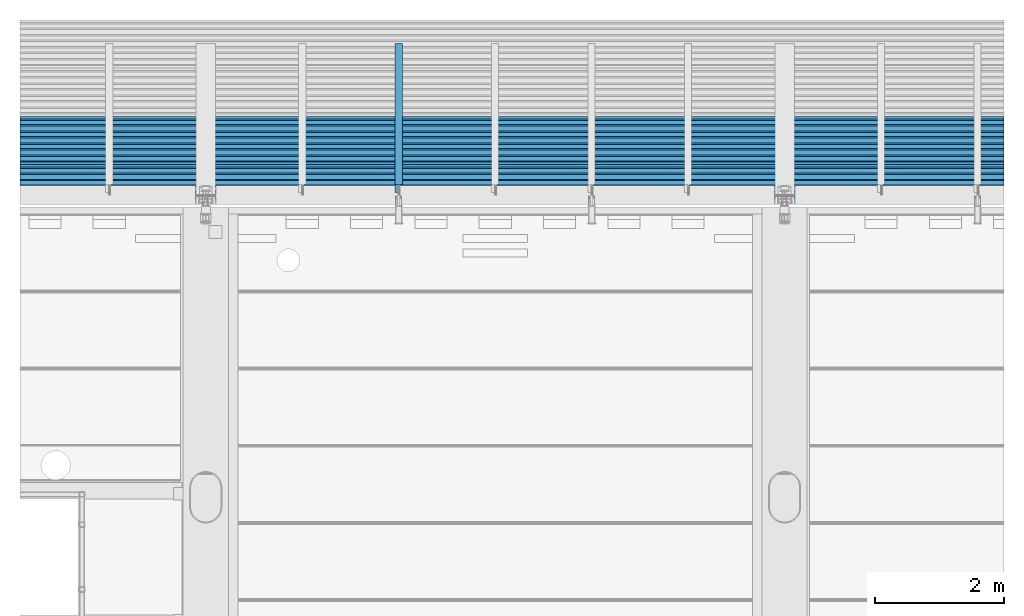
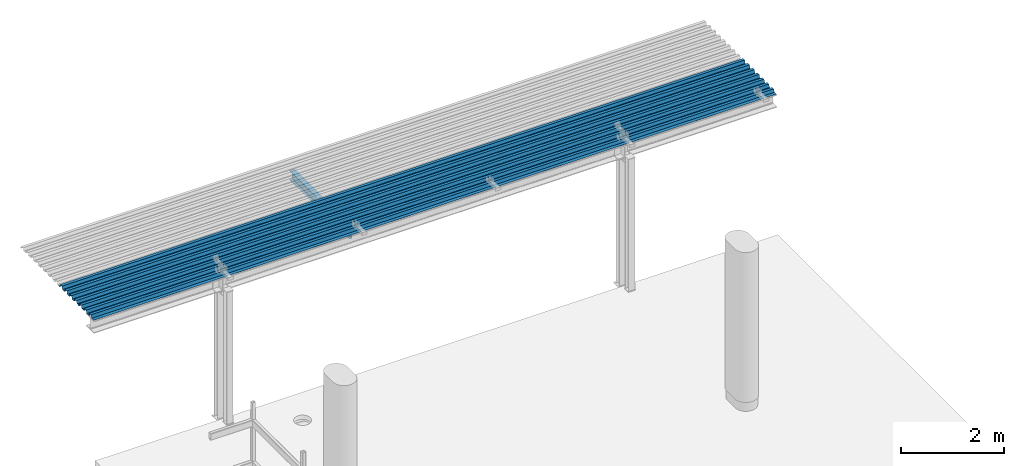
# One storey, part 25 of 34: 3 beams.
"""IFC2X3 building model written with IfcOpenShell, lengths in millimetres."""

from ifc_helpers import new_model, entity, si_unit, converted_unit, derived_unit, direction, frame, origin_with_axes, place, context, subcontext, project, spatial, faceted_brep, type_object, element, save


model = new_model("IFC2X3")

# Units and contexts
model_context = context("Model", 3, precision=0.01, world=frame((0.0, 4.29681676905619e-09, 0.0)), true_north=direction((4.01073788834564e-13, 1.0)))
plan_context = context("Plan", 3, precision=0.01, world=frame((0.0, 4.29681676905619e-09, 0.0)), true_north=direction((4.01073788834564e-13, 1.0)))
body_context = subcontext(model_context, "Body", "Model", "MODEL_VIEW")
ifc_project = project(units=[converted_unit("PLANEANGLEUNIT", "DEGREE", entity("IfcPositiveLengthMeasure", 0.0174532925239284), si_unit("PLANEANGLEUNIT", "RADIAN"), dimensions=[0, 0, 0, 0, 0, 0, 0]), si_unit("AREAUNIT", "SQUARE_METRE"), si_unit("LENGTHUNIT", "METRE", prefix="MILLI"), si_unit("MASSUNIT", "GRAM", prefix="KILO"), si_unit("POWERUNIT", "WATT"), si_unit("PRESSUREUNIT", "PASCAL"), si_unit("FORCEUNIT", "NEWTON", prefix="KILO"), si_unit("ELECTRICVOLTAGEUNIT", "VOLT"), si_unit("ELECTRICCURRENTUNIT", "AMPERE"), si_unit("THERMODYNAMICTEMPERATUREUNIT", "DEGREE_CELSIUS"), si_unit("TIMEUNIT", "SECOND"), si_unit("VOLUMEUNIT", "CUBIC_METRE"), derived_unit("LINEARVELOCITYUNIT", [(si_unit("LENGTHUNIT", "METRE"), 1), (si_unit("TIMEUNIT", "SECOND"), -1)]), derived_unit("VOLUMETRICFLOWRATEUNIT", [(si_unit("VOLUMEUNIT", "CUBIC_METRE"), 1), (si_unit("TIMEUNIT", "SECOND"), -1)]), derived_unit("THERMALTRANSMITTANCEUNIT", [(si_unit("POWERUNIT", "WATT"), 1), (si_unit("THERMODYNAMICTEMPERATUREUNIT", "KELVIN"), -1), (si_unit("AREAUNIT", "SQUARE_METRE"), -1)]), derived_unit("SOUNDPRESSUREUNIT", [(si_unit("PRESSUREUNIT", "PASCAL"), 1)])], contexts=[model_context, plan_context])

# Site, building, storey
site_placement = place(None, frame((0.0, -4.29681676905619e-09, 0.0), z_axis=(0.0, 0.0, 1.0), x_axis=(1.0, 0.0, 0.0)))
site = spatial("IfcSite", under=ifc_project, at=site_placement, Name="Gardermoen", CompositionType="ELEMENT")
building_placement = place(site_placement, frame((0.0, 4.29681676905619e-09, 0.0), z_axis=(0.0, 0.0, 1.0), x_axis=(1.0, 0.0, 0.0)))
building = spatial("IfcBuilding", under=site, at=building_placement, Name="TH", CompositionType="ELEMENT")
storey_placement = place(building_placement, origin_with_axes())
storey = spatial("IfcBuildingStorey", under=building, at=storey_placement, Name="F", CompositionType="ELEMENT", Elevation=0.0)

# Beams
beam_type_1 = type_object("IfcBeamType", Name="PLANJA70", PredefinedType="NOTDEFINED")
beam_1_placement = place(storey_placement, frame((935995.000000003, 485844.995625, 213454.15), z_axis=(-6.61744490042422e-24, 0.0, -1.0), x_axis=(-1.0, 0.0, 6.61744490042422e-24)))
element("IfcBeam", 1, at=beam_1_placement, inside=storey, type_object=beam_type_1, Name="STÅLTAK", ObjectType="PLANJA70", context=body_context, shape_type="Brep", body=[
    faceted_brep([(25584.4149880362, -335.07049561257, 33.1500015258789), (25584.4149880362, -312.781188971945, -33.1500015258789), (40883.0936612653, -312.781188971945, -33.1500015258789), (40883.0936612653, -335.07049561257, 33.1500015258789), (25584.4149880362, -249.719879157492, -33.1500015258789), (40883.0936612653, -249.719879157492, -33.1500015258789), (25584.4149880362, -227.199996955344, 34.1500015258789), (40883.0936612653, -227.199996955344, 34.1500015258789), (25584.4149880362, -147.800003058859, 34.1500015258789), (40883.0936612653, -147.800003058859, 34.1500015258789), (25584.4149880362, -125.280120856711, -33.1500015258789), (40883.0936612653, -125.280120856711, -33.1500015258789), (25584.4149880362, -62.219879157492, -33.1500015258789), (40883.0936612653, -62.219879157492, -33.1500015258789), (25584.4149880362, -39.7000007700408, 34.1500015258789), (40883.0936612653, -39.7000007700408, 34.1500015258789), (25584.4149880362, 39.7000007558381, 34.1500015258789), (40883.0936612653, 39.7000007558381, 34.1500015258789), (25584.4149880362, 62.2198791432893, -33.1500015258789), (40883.0936612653, 62.2198791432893, -33.1500015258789), (25584.4149880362, 125.280120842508, -33.1500015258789), (40883.0936612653, 125.280120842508, -33.1500015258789), (25584.4149880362, 147.800003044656, 34.1500015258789), (40883.0936612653, 147.800003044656, 34.1500015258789), (25584.4149880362, 227.199996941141, 34.1500015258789), (40883.0936612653, 227.199996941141, 34.1500015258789), (25584.4149880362, 249.489303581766, -32.1500015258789), (40883.0936612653, 249.489303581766, -32.1500015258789), (25584.4149880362, 313.010681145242, -32.1500015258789), (40883.0936612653, 313.010681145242, -32.1500015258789), (25584.4149880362, 335.299987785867, 34.1500015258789), (40883.0936612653, 335.299987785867, 34.1500015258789), (25584.4149880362, 374.999999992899, 34.1500015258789), (40883.0936612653, 374.999999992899, 34.1500015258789), (25584.4149880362, 374.999999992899, 33.1500015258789), (40883.0936612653, 374.999999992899, 33.1500015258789), (25584.4149880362, 336.018798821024, 33.1500015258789), (40883.0936612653, 336.018798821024, 33.1500015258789), (25584.4149880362, 313.729492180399, -33.1500015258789), (40883.0936612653, 313.729492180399, -33.1500015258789), (25584.4149880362, 248.77049254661, -33.1500015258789), (40883.0936612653, 248.77049254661, -33.1500015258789), (25584.4149880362, 226.481185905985, 33.1500015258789), (40883.0936612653, 226.481185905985, 33.1500015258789), (25584.4149880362, 148.519882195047, 33.1500015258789), (40883.0936612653, 148.519882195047, 33.1500015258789), (25584.4149880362, 125.999999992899, -34.1500015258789), (40883.0936612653, 125.999999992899, -34.1500015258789), (25584.4149880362, 61.4999999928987, -34.1500015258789), (40883.0936612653, 61.4999999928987, -34.1500015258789), (25584.4149880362, 38.9801177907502, 33.1500015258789), (40883.0936612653, 38.9801177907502, 33.1500015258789), (25584.4149880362, -38.9801178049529, 33.1500015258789), (40883.0936612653, -38.9801178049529, 33.1500015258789), (25584.4149880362, -61.5000000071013, -34.1500015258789), (40883.0936612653, -61.5000000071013, -34.1500015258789), (25584.4149880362, -126.000000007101, -34.1500015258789), (40883.0936612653, -126.000000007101, -34.1500015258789), (25584.4149880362, -148.51988220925, 33.1500015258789), (40883.0936612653, -148.51988220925, 33.1500015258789), (25584.4149880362, -226.480117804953, 33.1500015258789), (40883.0936612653, -226.480117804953, 33.1500015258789), (25584.4149880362, -249.000000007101, -34.1500015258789), (40883.0936612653, -249.000000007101, -34.1500015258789), (25584.4149880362, -313.500000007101, -34.1500015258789), (40883.0936612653, -313.500000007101, -34.1500015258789), (25584.4149880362, -335.789306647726, 32.1500015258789), (40883.0936612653, -335.789306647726, 32.1500015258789), (25584.4149880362, -375.000000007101, 32.1500015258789), (40883.0936612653, -375.000000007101, 32.1500015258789), (25584.4149880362, -375.000000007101, 33.1500015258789), (40883.0936612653, -375.000000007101, 33.1500015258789)], [[[0, 1, 2, 3]], [[1, 4, 5, 2]], [[4, 6, 7, 5]], [[6, 8, 9, 7]], [[8, 10, 11, 9]], [[10, 12, 13, 11]], [[12, 14, 15, 13]], [[14, 16, 17, 15]], [[16, 18, 19, 17]], [[18, 20, 21, 19]], [[20, 22, 23, 21]], [[22, 24, 25, 23]], [[24, 26, 27, 25]], [[26, 28, 29, 27]], [[28, 30, 31, 29]], [[30, 32, 33, 31]], [[32, 34, 35, 33]], [[34, 36, 37, 35]], [[36, 38, 39, 37]], [[38, 40, 41, 39]], [[40, 42, 43, 41]], [[42, 44, 45, 43]], [[44, 46, 47, 45]], [[46, 48, 49, 47]], [[48, 50, 51, 49]], [[50, 52, 53, 51]], [[52, 54, 55, 53]], [[54, 56, 57, 55]], [[56, 58, 59, 57]], [[58, 60, 61, 59]], [[60, 62, 63, 61]], [[62, 64, 65, 63]], [[64, 66, 67, 65]], [[66, 68, 69, 67]], [[68, 70, 71, 69]], [[70, 0, 3, 71]], [[70, 68, 66, 64, 62, 60, 58, 56, 54, 52, 50, 48, 46, 44, 42, 40, 38, 36, 34, 32, 30, 28, 26, 24, 22, 20, 18, 16, 14, 12, 10, 8, 6, 4, 1, 0]], [[5, 7, 9, 11, 13, 15, 17, 19, 21, 23, 25, 27, 29, 31, 33, 35, 37, 39, 41, 43, 45, 47, 49, 51, 53, 55, 57, 59, 61, 63, 65, 67, 69, 71, 3, 2]]], orient=[[False], [False], [False], [False], [False], [False], [False], [False], [False], [False], [False], [False], [False], [False], [False], [False], [False], [False], [False], [False], [False], [False], [False], [False], [False], [False], [False], [False], [False], [False], [False], [False], [False], [False], [False], [False], [False], [False]]),
])
beam_2_placement = place(storey_placement, frame((935995.000000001, 485094.995625, 213454.15), z_axis=(-6.61744490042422e-24, 0.0, -1.0), x_axis=(-1.0, 0.0, 6.61744490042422e-24)))
element("IfcBeam", 2, at=beam_2_placement, inside=storey, type_object=beam_type_1, Name="STÅLTAK", ObjectType="PLANJA70", context=body_context, shape_type="Brep", body=[
    faceted_brep([(25584.4149880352, -225.003976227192, 34.1500015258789), (25584.4149880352, -147.800003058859, 34.1500015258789), (40883.0936612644, -147.800003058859, 34.1500015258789), (40883.0936612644, -225.003976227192, 34.1500015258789), (25584.4149880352, -125.280120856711, -33.1500015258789), (40883.0936612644, -125.280120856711, -33.1500015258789), (25584.4149880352, -62.219879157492, -33.1500015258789), (40883.0936612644, -62.219879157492, -33.1500015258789), (25584.4149880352, -39.7000007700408, 34.1500015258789), (40883.0936612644, -39.7000007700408, 34.1500015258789), (25584.4149880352, 39.7000007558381, 34.1500015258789), (40883.0936612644, 39.7000007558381, 34.1500015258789), (25584.4149880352, 62.2198791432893, -33.1500015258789), (40883.0936612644, 62.2198791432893, -33.1500015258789), (25584.4149880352, 125.280120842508, -33.1500015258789), (40883.0936612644, 125.280120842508, -33.1500015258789), (25584.4149880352, 147.800003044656, 34.1500015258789), (40883.0936612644, 147.800003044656, 34.1500015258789), (25584.4149880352, 227.199996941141, 34.1500015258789), (40883.0936612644, 227.199996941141, 34.1500015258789), (25584.4149880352, 249.489303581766, -32.1500015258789), (40883.0936612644, 249.489303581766, -32.1500015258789), (25584.4149880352, 313.010681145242, -32.1500015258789), (40883.0936612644, 313.010681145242, -32.1500015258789), (25584.4149880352, 335.299987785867, 34.1500015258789), (40883.0936612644, 335.299987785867, 34.1500015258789), (25584.4149880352, 374.999999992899, 34.1500015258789), (40883.0936612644, 374.999999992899, 34.1500015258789), (25584.4149880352, 374.999999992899, 33.1500015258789), (40883.0936612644, 374.999999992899, 33.1500015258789), (25584.4149880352, 336.018798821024, 33.1500015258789), (40883.0936612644, 336.018798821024, 33.1500015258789), (25584.4149880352, 313.729492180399, -33.1500015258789), (40883.0936612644, 313.729492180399, -33.1500015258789), (25584.4149880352, 248.77049254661, -33.1500015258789), (40883.0936612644, 248.77049254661, -33.1500015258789), (25584.4149880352, 226.481185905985, 33.1500015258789), (40883.0936612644, 226.481185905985, 33.1500015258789), (25584.4149880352, 148.519882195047, 33.1500015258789), (40883.0936612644, 148.519882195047, 33.1500015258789), (25584.4149880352, 125.999999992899, -34.1500015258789), (40883.0936612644, 125.999999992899, -34.1500015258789), (25584.4149880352, 61.4999999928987, -34.1500015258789), (40883.0936612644, 61.4999999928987, -34.1500015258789), (25584.4149880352, 38.9801177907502, 33.1500015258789), (40883.0936612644, 38.9801177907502, 33.1500015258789), (25584.4149880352, -38.9801178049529, 33.1500015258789), (40883.0936612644, -38.9801178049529, 33.1500015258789), (25584.4149880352, -61.5000000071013, -34.1500015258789), (40883.0936612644, -61.5000000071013, -34.1500015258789), (25584.4149880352, -126.000000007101, -34.1500015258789), (40883.0936612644, -126.000000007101, -34.1500015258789), (25584.4149880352, -148.51988220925, 33.1500015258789), (40883.0936612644, -148.51988220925, 33.1500015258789), (40883.0936612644, -225.003976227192, 33.1500015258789), (25584.4149880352, -225.003976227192, 33.1500015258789)], [[[0, 1, 2, 3]], [[1, 4, 5, 2]], [[4, 6, 7, 5]], [[6, 8, 9, 7]], [[8, 10, 11, 9]], [[10, 12, 13, 11]], [[12, 14, 15, 13]], [[14, 16, 17, 15]], [[16, 18, 19, 17]], [[18, 20, 21, 19]], [[20, 22, 23, 21]], [[22, 24, 25, 23]], [[24, 26, 27, 25]], [[26, 28, 29, 27]], [[28, 30, 31, 29]], [[30, 32, 33, 31]], [[32, 34, 35, 33]], [[34, 36, 37, 35]], [[36, 38, 39, 37]], [[38, 40, 41, 39]], [[40, 42, 43, 41]], [[42, 44, 45, 43]], [[44, 46, 47, 45]], [[46, 48, 49, 47]], [[48, 50, 51, 49]], [[50, 52, 53, 51]], [[54, 53, 52, 55]], [[55, 0, 3, 54]], [[55, 52, 50, 48, 46, 44, 42, 40, 38, 36, 34, 32, 30, 28, 26, 24, 22, 20, 18, 16, 14, 12, 10, 8, 6, 4, 1, 0]], [[5, 7, 9, 11, 13, 15, 17, 19, 21, 23, 25, 27, 29, 31, 33, 35, 37, 39, 41, 43, 45, 47, 49, 51, 53, 54, 3, 2]]], orient=[[False], [False], [False], [False], [False], [False], [False], [False], [False], [False], [False], [False], [False], [False], [False], [False], [False], [False], [False], [False], [False], [False], [False], [False], [False], [False], [False], [False], [False], [False]]),
])
beam_type_2 = type_object("IfcBeamType", Name="IPE220", PredefinedType="NOTDEFINED")
beam_3_placement = place(storey_placement, frame((900999.999781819, 485029.995624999, 213310.0), z_axis=(0.0, 0.0, 1.0), x_axis=(0.0, 1.0, 0.0)))
element("IfcBeam", 3, at=beam_3_placement, inside=storey, type_object=beam_type_2, Name="STÅLBJELKE", ObjectType="IPE220", context=body_context, shape_type="Brep", body=[
    faceted_brep([(2327.65437500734, -55.0, -110.0), (2327.65437500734, 55.0, -110.0), (9.99999999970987, 55.0, -110.0), (9.99999999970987, -2.9500000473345, -110.0), (129.999999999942, -2.95000004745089, -110.0), (129.999999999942, -55.0, -110.0), (2327.65437500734, -55.0, -100.800000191), (129.999999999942, -55.0, -100.800000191), (2327.65437500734, -14.9500000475, -100.800000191), (129.999999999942, -14.9500000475, -100.800000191), (2327.65437500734, -12.6089161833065, -100.569423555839), (129.999999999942, -12.6089161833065, -100.569423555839), (2327.65437500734, -10.3577988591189, -99.8865545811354), (129.999999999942, -10.3577988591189, -99.8865545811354), (2327.65437500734, -8.28315725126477, -98.7776355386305), (129.999999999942, -8.28315725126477, -98.7776355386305), (2327.65437500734, -6.46471867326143, -97.2852815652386), (129.999999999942, -6.46471867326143, -97.2852815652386), (2327.65437500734, -4.97236469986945, -95.4668429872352), (129.999999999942, -4.97236469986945, -95.4668429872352), (2327.65437500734, -3.86344565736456, -93.3922013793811), (129.999999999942, -3.86344565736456, -93.3922013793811), (2327.65437500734, -3.18057668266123, -91.1410840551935), (129.999999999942, -3.18057668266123, -91.1410840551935), (2327.65437500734, -2.9500000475, -88.800000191), (129.999999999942, -2.96969830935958, -89.0), (9.99999999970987, -2.96969830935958, -89.0), (9.99999999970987, -2.9500000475, -88.800000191), (2327.65437500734, -2.9500000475, 88.800000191), (9.99999999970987, -2.9500000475, 70.0), (120.000000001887, -2.9500000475, 69.9999999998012), (121.564344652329, -2.9500000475, 70.1231165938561), (123.090169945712, -2.9500000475, 70.4894348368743), (124.539904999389, -2.9500000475, 71.0899347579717), (125.87785252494, -2.9500000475, 71.9098300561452), (127.071067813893, -2.9500000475, 72.9289321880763), (128.090169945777, -2.9500000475, 74.1221474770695), (128.910065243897, -2.9500000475, 75.4600950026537), (129.510565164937, -2.9500000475, 76.9098300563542), (129.876883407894, -2.9500000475, 78.4356553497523), (130.000000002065, -2.9500000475, 79.999999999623), (130.000000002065, -2.9500000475, 88.800000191), (1319.99999644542, -2.95000004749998, -62.4999973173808), (1330.28716071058, -2.95000004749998, -61.6475789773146), (1340.29371582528, -2.95000004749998, -59.113575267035), (1349.74671125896, -2.95000004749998, -54.9671072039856), (1358.38829393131, -2.95000004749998, -49.3212796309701), (1365.98274398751, -2.95000004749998, -42.3300960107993), (1372.32290462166, -2.95000004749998, -34.1842576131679), (1377.23583277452, -2.95000004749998, -25.1059616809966), (1380.58751656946, -2.95000004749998, -15.3428404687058), (1382.28653080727, -2.95000004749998, -5.16120647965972), (1382.28653080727, -2.95000004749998, 5.16121184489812), (1380.58751656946, -2.95000004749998, 15.3428458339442), (1377.23583277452, -2.95000004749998, 25.105967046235), (1372.32290462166, -2.95000004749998, 34.1842629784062), (1365.98274398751, -2.95000004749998, 42.3301013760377), (1358.38829393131, -2.95000004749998, 49.3212849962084), (1349.74671125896, -2.95000004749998, 54.9671125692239), (1340.29371582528, -2.95000004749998, 59.1135806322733), (1330.28716071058, -2.95000004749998, 61.6475843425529), (1319.99999866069, -2.95000004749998, 62.5000026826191), (1309.14699239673, -2.95000004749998, 61.5504878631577), (1298.62374438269, -2.95000004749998, 58.7307926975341), (1288.75000307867, -2.95000004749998, 54.1265921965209), (1279.82577711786, -2.95000004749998, 47.8777826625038), (1272.12222459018, -2.95000004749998, 40.1742310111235), (1265.87341404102, -2.95000004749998, 31.250005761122), (1261.26921241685, -2.95000004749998, 21.3762649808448), (1258.44951605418, -2.95000004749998, 10.8530172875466), (1257.50000000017, -2.95000004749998, 6.23736814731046e-06), (1258.44951481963, -2.95000004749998, -10.8530049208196), (1261.26920998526, -2.95000004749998, -21.3762529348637), (1265.87341048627, -2.95000004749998, -31.2499942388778), (1272.12222002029, -2.95000004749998, -40.1742201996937), (1279.82577167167, -2.95000004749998, -47.8777727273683), (1288.74999692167, -2.95000004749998, -54.1265832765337), (1298.62373770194, -2.95000004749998, -58.7307849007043), (1309.14698539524, -2.95000004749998, -61.5504812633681), (2327.65437500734, -3.18057668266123, 91.1410840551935), (130.000000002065, -3.18057668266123, 91.1410840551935), (2327.65437500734, -3.86344565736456, 93.3922013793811), (130.000000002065, -3.86344565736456, 93.3922013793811), (2327.65437500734, -4.97236469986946, 95.4668429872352), (130.000000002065, -4.97236469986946, 95.4668429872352), (2327.65437500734, -6.46471867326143, 97.2852815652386), (130.000000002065, -6.46471867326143, 97.2852815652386), (2327.65437500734, -8.28315725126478, 98.7776355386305), (130.000000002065, -8.28315725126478, 98.7776355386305), (2327.65437500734, -10.3577988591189, 99.8865545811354), (130.000000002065, -10.3577988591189, 99.8865545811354), (2327.65437500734, -12.6089161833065, 100.569423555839), (130.000000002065, -12.6089161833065, 100.569423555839), (2327.65437500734, -14.9500000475, 100.800000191), (130.000000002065, -14.9500000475, 100.800000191), (2327.65437500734, -55.0, 100.800000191), (130.000000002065, -55.0, 100.800000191), (2327.65437500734, -55.0, 110.0), (130.000000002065, -55.0, 110.0), (2327.65437500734, 55.0, 110.0), (130.000000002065, 55.0, 110.0), (2327.65437500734, 55.0, 100.800000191), (130.000000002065, 55.0, 100.800000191), (2327.65437500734, 14.9500000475, 100.800000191), (130.000000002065, 14.9500000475, 100.800000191), (2327.65437500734, 12.6089161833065, 100.569423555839), (130.000000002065, 12.6089161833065, 100.569423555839), (2327.65437500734, 10.3577988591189, 99.8865545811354), (130.000000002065, 10.3577988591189, 99.8865545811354), (2327.65437500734, 8.28315725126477, 98.7776355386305), (130.000000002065, 8.28315725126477, 98.7776355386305), (2327.65437500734, 6.46471867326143, 97.2852815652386), (130.000000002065, 6.46471867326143, 97.2852815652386), (2327.65437500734, 4.97236469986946, 95.4668429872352), (130.000000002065, 4.97236469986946, 95.4668429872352), (2327.65437500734, 3.86344565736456, 93.3922013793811), (130.000000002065, 3.86344565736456, 93.3922013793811), (2327.65437500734, 3.18057668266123, 91.1410840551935), (130.000000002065, 3.18057668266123, 91.1410840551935), (2327.65437500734, 2.9500000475, 88.800000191), (130.000000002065, 2.9500000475, 88.800000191), (2327.65437500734, 2.9500000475, -88.800000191), (130.000000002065, 2.95000004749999, 79.999999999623), (129.876883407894, 2.95000004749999, 78.4356553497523), (129.510565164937, 2.95000004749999, 76.9098300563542), (128.910065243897, 2.95000004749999, 75.4600950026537), (128.090169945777, 2.95000004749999, 74.1221474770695), (127.071067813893, 2.95000004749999, 72.9289321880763), (125.87785252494, 2.95000004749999, 71.9098300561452), (124.539904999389, 2.95000004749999, 71.0899347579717), (123.090169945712, 2.95000004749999, 70.4894348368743), (121.564344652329, 2.95000004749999, 70.1231165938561), (120.000000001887, 2.95000004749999, 69.9999999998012), (9.99999999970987, 2.9500000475, 70.0), (9.99999999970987, 2.9500000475, -88.800000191), (1330.28716071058, 2.95000004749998, -61.6475789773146), (1319.99999644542, 2.95000004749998, -62.4999973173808), (1309.14698539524, 2.95000004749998, -61.5504812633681), (1298.62373770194, 2.95000004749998, -58.7307849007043), (1288.74999692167, 2.95000004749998, -54.1265832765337), (1279.82577167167, 2.95000004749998, -47.8777727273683), (1272.12222002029, 2.95000004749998, -40.1742201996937), (1265.87341048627, 2.95000004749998, -31.2499942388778), (1261.26920998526, 2.95000004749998, -21.3762529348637), (1258.44951481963, 2.95000004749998, -10.8530049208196), (1257.50000000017, 2.95000004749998, 6.23736814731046e-06), (1258.44951605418, 2.95000004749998, 10.8530172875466), (1261.26921241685, 2.95000004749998, 21.3762649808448), (1265.87341404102, 2.95000004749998, 31.250005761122), (1272.12222459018, 2.95000004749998, 40.1742310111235), (1279.82577711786, 2.95000004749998, 47.8777826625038), (1288.75000307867, 2.95000004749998, 54.1265921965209), (1298.62374438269, 2.95000004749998, 58.7307926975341), (1309.14699239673, 2.95000004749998, 61.5504878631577), (1319.99999866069, 2.95000004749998, 62.5000026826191), (1330.28716071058, 2.95000004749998, 61.6475843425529), (1340.29371582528, 2.95000004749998, 59.1135806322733), (1349.74671125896, 2.95000004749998, 54.9671125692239), (1358.38829393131, 2.95000004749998, 49.3212849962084), (1365.98274398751, 2.95000004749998, 42.3301013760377), (1372.32290462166, 2.95000004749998, 34.1842629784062), (1377.23583277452, 2.95000004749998, 25.105967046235), (1380.58751656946, 2.95000004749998, 15.3428458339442), (1382.28653080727, 2.95000004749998, 5.16121184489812), (1382.28653080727, 2.95000004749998, -5.16120647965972), (1380.58751656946, 2.95000004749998, -15.3428404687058), (1377.23583277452, 2.95000004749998, -25.1059616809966), (1372.32290462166, 2.95000004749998, -34.1842576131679), (1365.98274398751, 2.95000004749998, -42.3300960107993), (1358.38829393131, 2.95000004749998, -49.3212796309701), (1349.74671125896, 2.95000004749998, -54.9671072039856), (1340.29371582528, 2.95000004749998, -59.113575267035), (2327.65437500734, 3.18057668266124, -91.1410840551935), (9.99999999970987, 3.18057668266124, -91.1410840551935), (2327.65437500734, 3.86344565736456, -93.3922013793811), (9.99999999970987, 3.86344565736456, -93.3922013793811), (2327.65437500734, 4.97236469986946, -95.4668429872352), (9.99999999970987, 4.97236469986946, -95.4668429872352), (2327.65437500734, 6.46471867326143, -97.2852815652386), (9.99999999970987, 6.46471867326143, -97.2852815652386), (2327.65437500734, 8.28315725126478, -98.7776355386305), (9.99999999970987, 8.28315725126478, -98.7776355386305), (2327.65437500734, 10.3577988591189, -99.8865545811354), (9.99999999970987, 10.3577988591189, -99.8865545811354), (2327.65437500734, 12.6089161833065, -100.569423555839), (9.99999999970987, 12.6089161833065, -100.569423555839), (2327.65437500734, 14.9500000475, -100.800000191), (9.99999999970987, 14.9500000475, -100.800000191), (2327.65437500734, 55.0, -100.800000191), (9.99999999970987, 55.0, -100.800000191), (129.999999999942, -2.95000004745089, -89.0), (9.99999999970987, -2.95000004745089, -89.0)], [[[0, 1, 2, 3, 4, 5]], [[6, 0, 5, 7]], [[8, 6, 7, 9]], [[10, 8, 9, 11]], [[12, 10, 11, 13]], [[14, 12, 13, 15]], [[16, 14, 15, 17]], [[18, 16, 17, 19]], [[20, 18, 19, 21]], [[22, 20, 21, 23]], [[24, 22, 23, 25, 26, 27]], [[28, 24, 27, 29, 30, 31, 32, 33, 34, 35, 36, 37, 38, 39, 40, 41], [42, 43, 44, 45, 46, 47, 48, 49, 50, 51, 52, 53, 54, 55, 56, 57, 58, 59, 60, 61, 62, 63, 64, 65, 66, 67, 68, 69, 70, 71, 72, 73, 74, 75, 76, 77, 78]], [[79, 28, 41, 80]], [[81, 79, 80, 82]], [[83, 81, 82, 84]], [[85, 83, 84, 86]], [[87, 85, 86, 88]], [[89, 87, 88, 90]], [[91, 89, 90, 92]], [[93, 91, 92, 94]], [[95, 93, 94, 96]], [[97, 95, 96, 98]], [[99, 97, 98, 100]], [[101, 99, 100, 102]], [[103, 101, 102, 104]], [[105, 103, 104, 106]], [[107, 105, 106, 108]], [[109, 107, 108, 110]], [[111, 109, 110, 112]], [[113, 111, 112, 114]], [[115, 113, 114, 116]], [[117, 115, 116, 118]], [[119, 117, 118, 120]], [[121, 119, 120, 122, 123, 124, 125, 126, 127, 128, 129, 130, 131, 132, 133, 134], [135, 136, 137, 138, 139, 140, 141, 142, 143, 144, 145, 146, 147, 148, 149, 150, 151, 152, 153, 154, 155, 156, 157, 158, 159, 160, 161, 162, 163, 164, 165, 166, 167, 168, 169, 170, 171]], [[172, 121, 134, 173]], [[174, 172, 173, 175]], [[176, 174, 175, 177]], [[178, 176, 177, 179]], [[180, 178, 179, 181]], [[182, 180, 181, 183]], [[184, 182, 183, 185]], [[186, 184, 185, 187]], [[188, 186, 187, 189]], [[1, 188, 189, 2]], [[43, 42, 136, 135]], [[42, 78, 137, 136]], [[78, 77, 138, 137]], [[77, 76, 139, 138]], [[76, 75, 140, 139]], [[75, 74, 141, 140]], [[74, 73, 142, 141]], [[73, 72, 143, 142]], [[72, 71, 144, 143]], [[71, 70, 145, 144]], [[70, 69, 146, 145]], [[69, 68, 147, 146]], [[68, 67, 148, 147]], [[67, 66, 149, 148]], [[66, 65, 150, 149]], [[65, 64, 151, 150]], [[64, 63, 152, 151]], [[63, 62, 153, 152]], [[62, 61, 154, 153]], [[61, 60, 155, 154]], [[60, 59, 156, 155]], [[59, 58, 157, 156]], [[58, 57, 158, 157]], [[57, 56, 159, 158]], [[56, 55, 160, 159]], [[55, 54, 161, 160]], [[54, 53, 162, 161]], [[53, 52, 163, 162]], [[52, 51, 164, 163]], [[51, 50, 165, 164]], [[50, 49, 166, 165]], [[49, 48, 167, 166]], [[48, 47, 168, 167]], [[47, 46, 169, 168]], [[46, 45, 170, 169]], [[45, 44, 171, 170]], [[44, 43, 135, 171]], [[190, 25, 23, 21, 19, 17, 15, 13, 11, 9, 7, 5, 4]], [[190, 191, 26, 25]], [[190, 4, 3, 191]], [[30, 29, 133, 132]], [[132, 131, 31, 30]], [[131, 130, 32, 31]], [[130, 129, 33, 32]], [[129, 128, 34, 33]], [[128, 127, 35, 34]], [[127, 126, 36, 35]], [[126, 125, 37, 36]], [[125, 124, 38, 37]], [[124, 123, 39, 38]], [[123, 122, 40, 39]], [[122, 120, 118, 116, 114, 112, 110, 108, 106, 104, 102, 100, 98, 96, 94, 92, 90, 88, 86, 84, 82, 80, 41, 40]], [[26, 191, 3, 2, 189, 187, 185, 183, 181, 179, 177, 175, 173, 134, 133, 29, 27]], [[6, 8, 10, 12, 14, 16, 18, 20, 22, 24, 28, 79, 81, 83, 85, 87, 89, 91, 93, 95, 97, 99, 101, 103, 105, 107, 109, 111, 113, 115, 117, 119, 121, 172, 174, 176, 178, 180, 182, 184, 186, 188, 1, 0]]], orient=[[False], [False], [False], [False], [False], [False], [False], [False], [False], [False], [False], [False, False], [False], [False], [False], [False], [False], [False], [False], [False], [False], [False], [False], [False], [False], [False], [False], [False], [False], [False], [False], [False], [False], [False, False], [False], [False], [False], [False], [False], [False], [False], [False], [False], [False], [False], [False], [False], [False], [False], [False], [False], [False], [False], [False], [False], [False], [False], [False], [False], [False], [False], [False], [False], [False], [False], [False], [False], [False], [False], [False], [False], [False], [False], [False], [False], [False], [False], [False], [False], [False], [False], [False], [False], [False], [False], [False], [False], [False], [False], [False], [False], [False], [False], [False], [False], [False], [False], [False]]),
])

save(model, "model.ifc")
